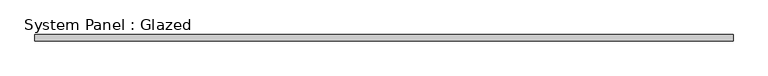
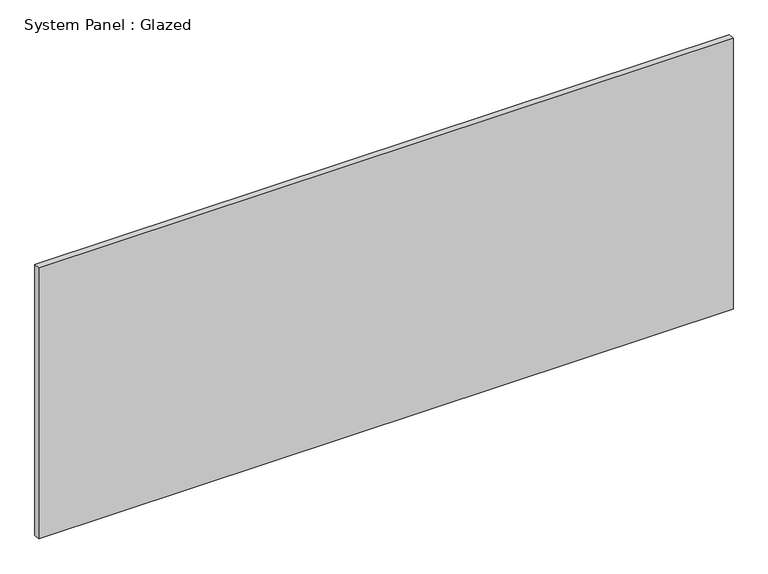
"""IFC4 building model written with IfcOpenShell, lengths in millimetres: plate geometry, System Panel : Glazed."""

from ifc_helpers import new_model, si_unit, origin, origin_with_axes, place, context, project, spatial, polyline, outline, extrude, source, transform, mapped, element, save


def system_panel_glazed_e890f31e(model_context):
    return source(origin(), model_context, "Body", "SweptSolid", [
        extrude(outline(polyline([(1395.2963125, 24.5), (-1395.2963125, 24.5), (-1395.2963125, 49.5), (1395.2963125, 49.5), (1395.2963125, 24.5)])), origin_with_axes(), (0.0, 0.0, 1.0), 1150.0),
    ])


if __name__ == "__main__":
    model = new_model("IFC4")
    model_context = context("Model", 3, world=origin())
    ifc_project = project(units=[si_unit("LENGTHUNIT", "METRE", prefix="MILLI")], contexts=[model_context])
    site = spatial("IfcSite", under=ifc_project)
    building = spatial("IfcBuilding", under=site)
    placement = place(None, origin())
    system_panel_glazed_shape = system_panel_glazed_e890f31e(model_context)
    element("IfcPlate", 1, ObjectType="System Panel : Glazed", at=placement, inside=building, context=model_context, shape_type="MappedRepresentation", body=[
        mapped(system_panel_glazed_shape, transform((0.0, 0.0, 0.0), x_axis=(1.0, 0.0, 0.0), y_axis=(0.0, 1.0, 0.0), z_axis=(0.0, 0.0, 1.0))),
    ])
    save(model, "model.ifc")
